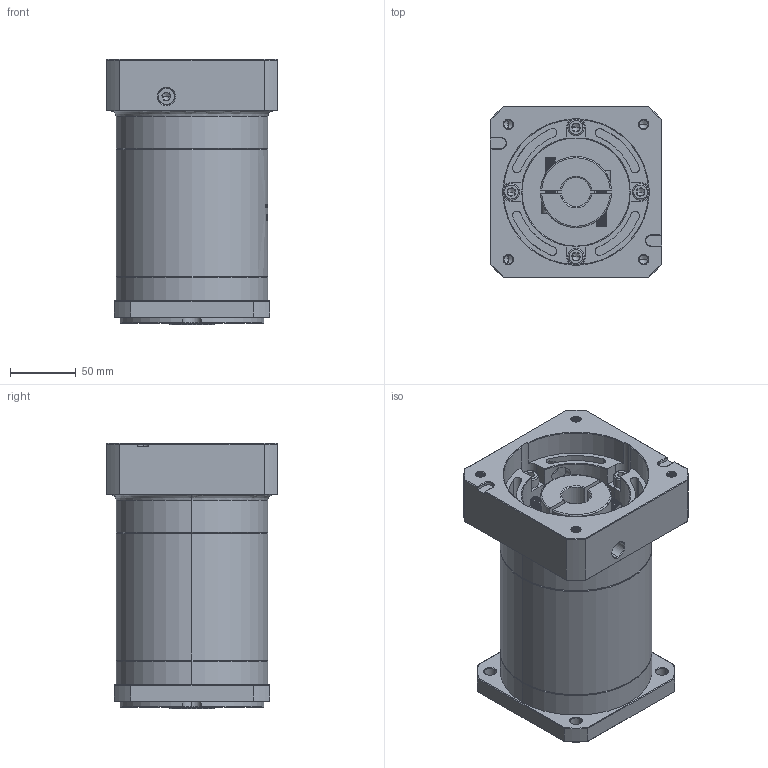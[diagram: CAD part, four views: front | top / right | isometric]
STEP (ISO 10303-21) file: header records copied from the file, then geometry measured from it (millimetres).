
FILE_DESCRIPTION (( 'STEP AP214' ), '1' );
FILE_NAME ('ZF120A-K25-L3-22-110-145-M8.step', '2023-03-07T09:39:28', ( '' ), ( '' ), 'SwSTEP 2.0', 'SolidWorks 2016', '' );
FILE_SCHEMA (( 'AUTOMOTIVE_DESIGN' ));
Length unit declared in the file: millimetre
Products named in the file (1): ZF120A-K25-L3-22-110-145-M8
Bounding box: 130 x 130 x 201 mm (x, y, z)
Volume: 2003186.8 mm3; surface area: 200258.4 mm2
Topology: 6 solids, 6 shells, 1945 faces, 5132 edges, 3279 vertices
Faces by surface type: plane 876, cylinder 416, cone 321, bspline 314, torus 18
Entity records: 104942 total; most frequent: CARTESIAN_POINT 39011, ORIENTED_EDGE 10208, DIRECTION 7981, EDGE_CURVE 5104, VERTEX_POINT 3279, VECTOR 2771, LINE 2771, AXIS2_PLACEMENT_3D 2605
